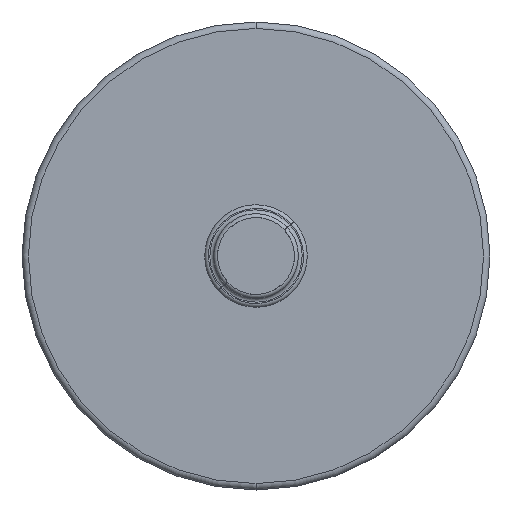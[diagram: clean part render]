
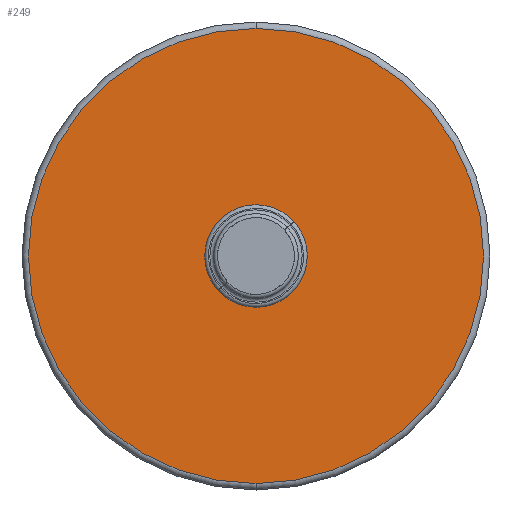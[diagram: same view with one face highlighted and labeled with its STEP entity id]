
A CAD part, left-side view. The second image highlights one B-rep face of the part: STEP entity #249.
In plain terms, the highlighted planar face has unit normal (-1, 0, 0).
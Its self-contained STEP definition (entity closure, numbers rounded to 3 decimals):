
#12 = VERTEX_POINT ( 'NONE', #1152 ) ;
#15 = VERTEX_POINT ( 'NONE', #1151 ) ;
#16 = EDGE_CURVE ( 'NONE', #12, #15, #1149, .T. ) ;
#19 = EDGE_LOOP ( 'NONE', ( #226, #227 ) ) ;
#226 = ORIENTED_EDGE ( 'NONE', *, *, #246, .T. ) ;
#227 = ORIENTED_EDGE ( 'NONE', *, *, #5122, .T. ) ;
#228 = EDGE_LOOP ( 'NONE', ( #229, #230 ) ) ;
#229 = ORIENTED_EDGE ( 'NONE', *, *, #16, .F. ) ;
#230 = ORIENTED_EDGE ( 'NONE', *, *, #231, .F. ) ;
#231 = EDGE_CURVE ( 'NONE', #15, #12, #1785, .T. ) ;
#246 = EDGE_CURVE ( 'NONE', #5119, #5118, #1853, .T. ) ;
#249 = ADVANCED_FACE ( 'NONE', ( #1848, #1847 ), #1883, .F. ) ;
#1145 = DIRECTION ( 'NONE',  ( 0., 0., 1. ) ) ;
#1146 = DIRECTION ( 'NONE',  ( -1., 0., 0. ) ) ;
#1147 = CARTESIAN_POINT ( 'NONE',  ( -60.025, 5.759, 0. ) ) ;
#1148 = AXIS2_PLACEMENT_3D ( 'NONE', #1147, #1146, #1145 ) ;
#1149 = CIRCLE ( 'NONE', #1148, 3.85 ) ;
#1151 = CARTESIAN_POINT ( 'NONE',  ( -60.025, 5.759, -3.85 ) ) ;
#1152 = CARTESIAN_POINT ( 'NONE',  ( -60.025, 5.759, 3.85 ) ) ;
#1781 = DIRECTION ( 'NONE',  ( 0., 0., 1. ) ) ;
#1782 = DIRECTION ( 'NONE',  ( -1., 0., 0. ) ) ;
#1783 = CARTESIAN_POINT ( 'NONE',  ( -60.025, 5.759, 0. ) ) ;
#1784 = AXIS2_PLACEMENT_3D ( 'NONE', #1783, #1782, #1781 ) ;
#1785 = CIRCLE ( 'NONE', #1784, 3.85 ) ;
#1847 = FACE_BOUND ( 'NONE', #228, .T. ) ;
#1848 = FACE_OUTER_BOUND ( 'NONE', #19, .T. ) ;
#1849 = DIRECTION ( 'NONE',  ( 0., 0., -1. ) ) ;
#1850 = DIRECTION ( 'NONE',  ( -1., 0., 0. ) ) ;
#1851 = CARTESIAN_POINT ( 'NONE',  ( -60.025, 5.759, 0. ) ) ;
#1852 = AXIS2_PLACEMENT_3D ( 'NONE', #1851, #1850, #1849 ) ;
#1853 = CIRCLE ( 'NONE', #1852, 17.75 ) ;
#1878 = DIRECTION ( 'NONE',  ( 0., 0., -1. ) ) ;
#1879 = DIRECTION ( 'NONE',  ( 1., 0., 0. ) ) ;
#1880 = CARTESIAN_POINT ( 'NONE',  ( -60.025, 9.609, 0. ) ) ;
#1881 = AXIS2_PLACEMENT_3D ( 'NONE', #1880, #1879, #1878 ) ;
#1883 = PLANE ( 'NONE',  #1881 ) ;
#4943 = DIRECTION ( 'NONE',  ( 0., 0., -1. ) ) ;
#4944 = DIRECTION ( 'NONE',  ( -1., 0., 0. ) ) ;
#4945 = CARTESIAN_POINT ( 'NONE',  ( -60.025, 5.759, 0. ) ) ;
#4946 = AXIS2_PLACEMENT_3D ( 'NONE', #4945, #4944, #4943 ) ;
#4947 = CIRCLE ( 'NONE', #4946, 17.75 ) ;
#4948 = CARTESIAN_POINT ( 'NONE',  ( -60.025, 5.759, -17.75 ) ) ;
#4949 = CARTESIAN_POINT ( 'NONE',  ( -60.025, 5.759, 17.75 ) ) ;
#5118 = VERTEX_POINT ( 'NONE', #4949 ) ;
#5119 = VERTEX_POINT ( 'NONE', #4948 ) ;
#5122 = EDGE_CURVE ( 'NONE', #5118, #5119, #4947, .T. ) ;
